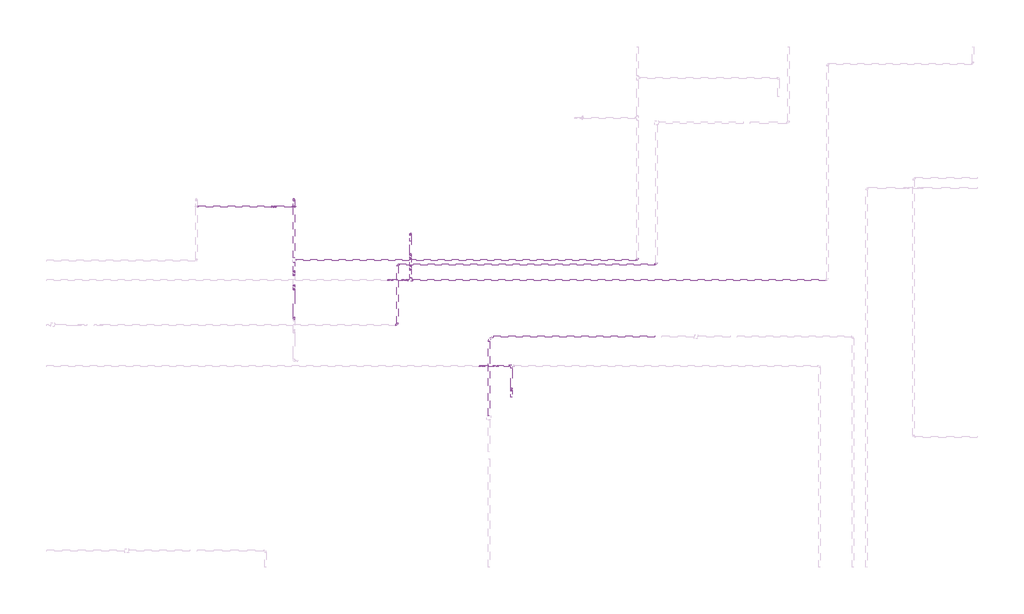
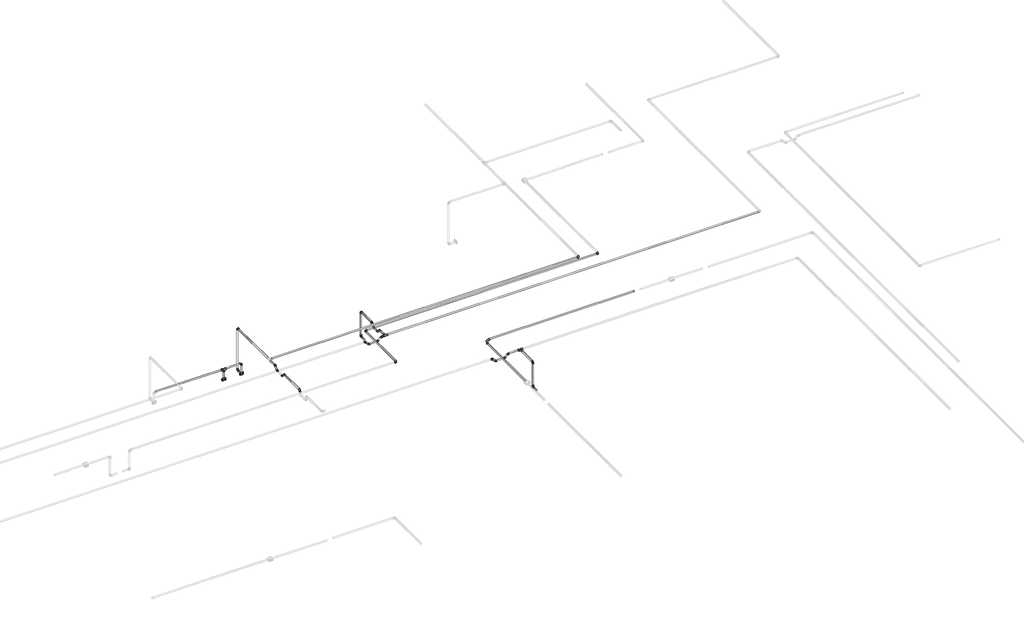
# One storey, part 31 of 40: 35 cable carrier segments, 32 cable carrier fittings, 2 electric appliances.
"""IFC4 building model written with IfcOpenShell, lengths in millimetres."""

from ifc_helpers import new_model, si_unit, point, frame, frame_2d, origin, place, context, project, spatial, circle_curve, trimmed, segment, composite_curve, outline, extrude, transform, mapped, element, save
from components import cable_carrier_fitting_69f1a801, cable_carrier_fitting_ce951043, cable_carrier_fitting_8122f9af, cable_carrier_fitting_8fd13dfc, electric_appliance_5961a143

model = new_model("IFC4")

# Units and contexts
model_context = context("Model", 3, world=origin())
ifc_project = project(units=[si_unit("LENGTHUNIT", "METRE", prefix="MILLI")], contexts=[model_context])

# Site, building, storey
site = spatial("IfcSite", under=ifc_project)
building = spatial("IfcBuilding", under=site)
storey = spatial("IfcBuildingStorey", under=building, Name="1 этаж", Elevation=0.0)

# Cable carrier fittings
placement = place(None, origin())
cable_carrier_fitting_shape = cable_carrier_fitting_69f1a801(model_context)
element("IfcCableCarrierFitting", 1, ObjectType="ADSK_Поворот_Минимальный размер : Неспецифицируемый", at=placement, inside=storey, context=model_context, shape_type="MappedRepresentation", body=[
    mapped(cable_carrier_fitting_shape, transform((5967.6759979, 5918.6370105, 3189.2903068), x_axis=(1.0, 0.0, 0.0), y_axis=(0.0, 1.0, 0.0), z_axis=(0.0, 0.0, 1.0))),
])
element("IfcCableCarrierFitting", 2, ObjectType="ADSK_Поворот_Минимальный размер : Неспецифицируемый", at=placement, inside=storey, context=model_context, shape_type="MappedRepresentation", body=[
    mapped(cable_carrier_fitting_shape, transform((2554.1759979, 5122.1370105, 3189.2903068), x_axis=(1.0, 0.0, 0.0), y_axis=(0.0, 1.0, 0.0), z_axis=(0.0, 0.0, 1.0))),
])
element("IfcCableCarrierFitting", 3, ObjectType="ADSK_Поворот_Минимальный размер : Неспецифицируемый", at=placement, inside=storey, context=model_context, shape_type="MappedRepresentation", body=[
    mapped(cable_carrier_fitting_shape, transform((2554.1759979, 5918.6370105, 3189.2903068), x_axis=(-1.0, 0.0, 0.0), y_axis=(0.0, -1.0, 0.0), z_axis=(0.0, 0.0, 1.0))),
])
element("IfcCableCarrierFitting", 4, ObjectType="ADSK_Поворот_Минимальный размер : Неспецифицируемый", at=placement, inside=storey, context=model_context, shape_type="MappedRepresentation", body=[
    mapped(cable_carrier_fitting_shape, transform((1187.6759979, 6678.6370105, 2700.0), x_axis=(0.0, 0.0, 1.0), y_axis=(-1.0, 0.0, 0.0), z_axis=(0.0, -1.0, 0.0))),
])
element("IfcCableCarrierFitting", 5, ObjectType="ADSK_Поворот_Минимальный размер : Неспецифицируемый", at=placement, inside=storey, context=model_context, shape_type="MappedRepresentation", body=[
    mapped(cable_carrier_fitting_shape, transform((1187.6759979, 6778.8368161, 2534.0911237), x_axis=(0.0, 1.0, 0.0), y_axis=(0.0, 0.0, 1.0), z_axis=(1.0, 0.0, 0.0))),
])
element("IfcCableCarrierFitting", 6, ObjectType="ADSK_Поворот_Минимальный размер : Неспецифицируемый", at=placement, inside=storey, context=model_context, shape_type="MappedRepresentation", body=[
    mapped(cable_carrier_fitting_shape, transform((1187.6759979, 6778.8368161, 3187.0), x_axis=(0.0, 0.0, 1.0), y_axis=(0.0, -1.0, 0.0), z_axis=(1.0, 0.0, 0.0))),
])
element("IfcCableCarrierFitting", 7, ObjectType="ADSK_Поворот_Минимальный размер : Неспецифицируемый", at=placement, inside=storey, context=model_context, shape_type="MappedRepresentation", body=[
    mapped(cable_carrier_fitting_shape, transform((5717.6759979, 5976.4696908, 3187.0), x_axis=(1.0, 0.0, 0.0), y_axis=(0.0, 1.0, 0.0), z_axis=(0.0, 0.0, 1.0))),
])
element("IfcCableCarrierFitting", 8, ObjectType="ADSK_Поворот_Минимальный размер : Неспецифицируемый", at=placement, inside=storey, context=model_context, shape_type="MappedRepresentation", body=[
    mapped(cable_carrier_fitting_shape, transform((4057.6759979, 4266.8368161, 2797.4861504), x_axis=(0.0, 1.0, 0.0), y_axis=(0.0, 0.0, 1.0), z_axis=(1.0, 0.0, 0.0))),
])
element("IfcCableCarrierFitting", 9, ObjectType="ADSK_Поворот_Минимальный размер : Неспецифицируемый", at=placement, inside=storey, context=model_context, shape_type="MappedRepresentation", body=[
    mapped(cable_carrier_fitting_shape, transform((4057.6759979, 4266.8368161, 3180.0), x_axis=(0.0, 0.0, 1.0), y_axis=(0.0, 1.0, 0.0), z_axis=(-1.0, 0.0, 0.0))),
])
element("IfcCableCarrierFitting", 10, ObjectType="ADSK_Поворот_Минимальный размер : Неспецифицируемый", at=placement, inside=storey, context=model_context, shape_type="MappedRepresentation", body=[
    mapped(cable_carrier_fitting_shape, transform((2727.6759979, 6321.8368161, 2797.4861504), x_axis=(0.0, 1.0, 0.0), y_axis=(0.0, 0.0, 1.0), z_axis=(1.0, 0.0, 0.0))),
])
element("IfcCableCarrierFitting", 11, ObjectType="ADSK_Поворот_Минимальный размер : Неспецифицируемый", at=placement, inside=storey, context=model_context, shape_type="MappedRepresentation", body=[
    mapped(cable_carrier_fitting_shape, transform((2727.6759979, 6321.8368161, 3180.0), x_axis=(0.0, 0.0, 1.0), y_axis=(0.0, -1.0, 0.0), z_axis=(1.0, 0.0, 0.0))),
])
element("IfcCableCarrierFitting", 12, ObjectType="ADSK_Поворот_Минимальный размер : Неспецифицируемый", at=placement, inside=storey, context=model_context, shape_type="MappedRepresentation", body=[
    mapped(cable_carrier_fitting_shape, transform((1187.6759979, 5198.8368161, 3187.0), x_axis=(0.0, 0.0, 1.0), y_axis=(0.0, 1.0, 0.0), z_axis=(-1.0, 0.0, 0.0))),
])
cable_carrier_fitting_2_shape = cable_carrier_fitting_ce951043(model_context)
element("IfcCableCarrierFitting", 13, ObjectType="ADSK_Поворот_Минимальный размер : Неспецифицируемый", at=placement, inside=storey, context=model_context, shape_type="MappedRepresentation", body=[
    mapped(cable_carrier_fitting_2_shape, transform((3758.6759895, 4964.6370534, 3189.9433093), x_axis=(-0.9999999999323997, 0.0, -1.1627573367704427e-05), y_axis=(-2.839990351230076e-10, -0.9999999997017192, 2.4424617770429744e-05), z_axis=(-1.1627573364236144e-05, 2.4424617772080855e-05, 0.9999999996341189))),
])
cable_carrier_fitting_3_shape = cable_carrier_fitting_8122f9af(model_context)
element("IfcCableCarrierFitting", 14, ObjectType="ADSK_Поворот_Минимальный размер : Неспецифицируемый", at=placement, inside=storey, context=model_context, shape_type="MappedRepresentation", body=[
    mapped(cable_carrier_fitting_3_shape, transform((1187.6759979, 5776.2092818, 3137.0), x_axis=(0.0, -0.707106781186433, -0.7071067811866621), y_axis=(0.0, -0.7071067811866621, 0.707106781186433), z_axis=(-1.0, 0.0, 0.0))),
])
element("IfcCableCarrierFitting", 15, ObjectType="ADSK_Поворот_Минимальный размер : Неспецифицируемый", at=placement, inside=storey, context=model_context, shape_type="MappedRepresentation", body=[
    mapped(cable_carrier_fitting_3_shape, transform((1187.6759979, 5643.0647393, 3137.0), x_axis=(0.0, -1.0, 0.0), y_axis=(0.0, 0.0, 1.0), z_axis=(-1.0, 0.0, 0.0))),
])
element("IfcCableCarrierFitting", 16, ObjectType="ADSK_Поворот_Минимальный размер : Неспецифицируемый", at=placement, inside=storey, context=model_context, shape_type="MappedRepresentation", body=[
    mapped(cable_carrier_fitting_3_shape, transform((2487.6037266, 5709.6370105, 3130.0), x_axis=(0.7071067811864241, 0.0, -0.7071067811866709), y_axis=(0.7071067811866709, 0.0, 0.7071067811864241), z_axis=(0.0, -1.0, 0.0))),
])
element("IfcCableCarrierFitting", 17, ObjectType="ADSK_Поворот_Минимальный размер : Неспецифицируемый", at=placement, inside=storey, context=model_context, shape_type="MappedRepresentation", body=[
    mapped(cable_carrier_fitting_3_shape, transform((2620.7482691, 5709.6370105, 3130.0), x_axis=(1.0, 0.0, 0.0), y_axis=(0.0, 0.0, 1.0), z_axis=(0.0, -1.0, 0.0))),
])
element("IfcCableCarrierFitting", 18, ObjectType="ADSK_Поворот_Минимальный размер : Неспецифицируемый", at=placement, inside=storey, context=model_context, shape_type="MappedRepresentation", body=[
    mapped(cable_carrier_fitting_3_shape, transform((2670.7482691, 5709.6370105, 3180.0), x_axis=(0.7071067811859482, 0.0, 0.7071067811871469), y_axis=(0.7071067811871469, 0.0, -0.7071067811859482), z_axis=(0.0, 1.0, 0.0))),
])
element("IfcCableCarrierFitting", 19, ObjectType="ADSK_Поворот_Минимальный размер : Неспецифицируемый", at=placement, inside=storey, context=model_context, shape_type="MappedRepresentation", body=[
    mapped(cable_carrier_fitting_3_shape, transform((2437.6037266, 5709.6370105, 3180.0), x_axis=(-0.7071067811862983, 0.0, 0.7071067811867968), y_axis=(-0.7071067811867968, 0.0, -0.7071067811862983), z_axis=(0.0, -1.0, 0.0))),
])
element("IfcCableCarrierFitting", 20, ObjectType="ADSK_Поворот_Минимальный размер : Неспецифицируемый", at=placement, inside=storey, context=model_context, shape_type="MappedRepresentation", body=[
    mapped(cable_carrier_fitting_3_shape, transform((2727.6759979, 6046.4696908, 3180.0), x_axis=(0.0, -1.0, 0.0), y_axis=(0.0, 0.0, -1.0), z_axis=(1.0, 0.0, 0.0))),
])
element("IfcCableCarrierFitting", 21, ObjectType="ADSK_Поворот_Минимальный размер : Неспецифицируемый", at=placement, inside=storey, context=model_context, shape_type="MappedRepresentation", body=[
    mapped(cable_carrier_fitting_3_shape, transform((2727.6759979, 5996.4696908, 3130.0), x_axis=(0.0, -0.7071067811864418, -0.7071067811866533), y_axis=(0.0, -0.7071067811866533, 0.7071067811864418), z_axis=(-1.0, 0.0, 0.0))),
])
element("IfcCableCarrierFitting", 22, ObjectType="ADSK_Поворот_Минимальный размер : Неспецифицируемый", at=placement, inside=storey, context=model_context, shape_type="MappedRepresentation", body=[
    mapped(cable_carrier_fitting_3_shape, transform((2727.6759979, 5898.6370105, 3130.0), x_axis=(0.0, -1.0, 0.0), y_axis=(0.0, 0.0, 1.0), z_axis=(-1.0, 0.0, 0.0))),
])
element("IfcCableCarrierFitting", 23, ObjectType="ADSK_Поворот_Минимальный размер : Неспецифицируемый", at=placement, inside=storey, context=model_context, shape_type="MappedRepresentation", body=[
    mapped(cable_carrier_fitting_3_shape, transform((2727.6759979, 5848.6370105, 3180.0), x_axis=(0.0, -0.7071067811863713, 0.7071067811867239), y_axis=(0.0, -0.7071067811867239, -0.7071067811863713), z_axis=(1.0, 0.0, 0.0))),
])
element("IfcCableCarrierFitting", 24, ObjectType="ADSK_Поворот_Минимальный размер : Неспецифицируемый", at=placement, inside=storey, context=model_context, shape_type="MappedRepresentation", body=[
    mapped(cable_carrier_fitting_3_shape, transform((3875.2482608, 4582.0648158, 3180.0), x_axis=(-1.0, 0.0, 0.0), y_axis=(0.0, 0.0, -1.0), z_axis=(0.0, -1.0, 0.0))),
])
element("IfcCableCarrierFitting", 25, ObjectType="ADSK_Поворот_Минимальный размер : Неспецифицируемый", at=placement, inside=storey, context=model_context, shape_type="MappedRepresentation", body=[
    mapped(cable_carrier_fitting_3_shape, transform((3825.2482608, 4582.0648158, 3130.0), x_axis=(-0.7071067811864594, 0.0, -0.7071067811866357), y_axis=(-0.7071067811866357, 0.0, 0.7071067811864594), z_axis=(0.0, 1.0, 0.0))),
])
element("IfcCableCarrierFitting", 26, ObjectType="ADSK_Поворот_Минимальный размер : Неспецифицируемый", at=placement, inside=storey, context=model_context, shape_type="MappedRepresentation", body=[
    mapped(cable_carrier_fitting_3_shape, transform((3692.1037183, 4582.0648158, 3130.0), x_axis=(-1.0, 0.0, 0.0), y_axis=(0.0, 0.0, 1.0), z_axis=(0.0, 1.0, 0.0))),
])
element("IfcCableCarrierFitting", 27, ObjectType="ADSK_Поворот_Минимальный размер : Неспецифицируемый", at=placement, inside=storey, context=model_context, shape_type="MappedRepresentation", body=[
    mapped(cable_carrier_fitting_3_shape, transform((3642.1037183, 4582.0648158, 3180.0), x_axis=(-0.7071067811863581, 0.0, 0.7071067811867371), y_axis=(-0.7071067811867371, 0.0, -0.7071067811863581), z_axis=(0.0, -1.0, 0.0))),
])
element("IfcCableCarrierFitting", 28, ObjectType="ADSK_Поворот_Минимальный размер : Неспецифицируемый", at=placement, inside=storey, context=model_context, shape_type="MappedRepresentation", body=[
    mapped(cable_carrier_fitting_3_shape, transform((1187.6759979, 5826.2092818, 3187.0), x_axis=(0.0, 0.7071067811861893, 0.7071067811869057), y_axis=(0.0, 0.7071067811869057, -0.7071067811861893), z_axis=(-1.0, 0.0, 0.0))),
])
element("IfcCableCarrierFitting", 29, ObjectType="ADSK_Поворот_Минимальный размер : Неспецифицируемый", at=placement, inside=storey, context=model_context, shape_type="MappedRepresentation", body=[
    mapped(cable_carrier_fitting_3_shape, transform((1187.6759979, 5593.0647393, 3187.0), x_axis=(0.0, -0.7071067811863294, 0.7071067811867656), y_axis=(0.0, -0.7071067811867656, -0.7071067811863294), z_axis=(1.0, 0.0, 0.0))),
])
cable_carrier_fitting_4_shape = cable_carrier_fitting_8fd13dfc(model_context)
element("IfcCableCarrierFitting", 30, ObjectType="ADSK_Тройник : ПВХ", at=placement, inside=storey, context=model_context, shape_type="MappedRepresentation", body=[
    mapped(cable_carrier_fitting_4_shape, transform((927.6759979, 6678.6370105, 2700.0), x_axis=(1.0, 0.0, 0.0), y_axis=(0.0, 0.0, 1.0), z_axis=(0.0, -1.0, 0.0))),
])
element("IfcCableCarrierFitting", 31, ObjectType="ADSK_Тройник : ПВХ", at=placement, inside=storey, context=model_context, shape_type="MappedRepresentation", body=[
    mapped(cable_carrier_fitting_4_shape, transform((4057.6759979, 4582.0648158, 3180.0), x_axis=(1.0, 0.0, 0.0), y_axis=(0.0, 1.0, 0.0), z_axis=(0.0, 0.0, 1.0))),
])
element("IfcCableCarrierFitting", 32, ObjectType="ADSK_Тройник : ПВХ", at=placement, inside=storey, context=model_context, shape_type="MappedRepresentation", body=[
    mapped(cable_carrier_fitting_4_shape, transform((2727.6759979, 5709.6370105, 3180.0), x_axis=(-1.0, 0.0, 0.0), y_axis=(0.0, -1.0, 0.0), z_axis=(0.0, 0.0, 1.0))),
])

# Cable carrier segments
element("IfcCableCarrierSegment", 33, ObjectType="Гофрированная труба", at=placement, inside=storey, context=model_context, shape_type="SweptSolid", body=[
    extrude(outline(composite_curve([segment(trimmed(circle_curve(frame_2d((4964.637062, 3189.8106424)), 10.0), [point((4954.637062, 3189.8108867))], [point((4964.6373062, 3199.8106424))], False, "CARTESIAN"), True, "CONTINUOUS"), segment(trimmed(circle_curve(frame_2d((4964.637062, 3189.8106424)), 10.0), [point((4964.6373062, 3199.8106424))], [point((4974.637062, 3189.8103982))], False, "CARTESIAN"), True, "CONTINUOUS"), segment(trimmed(circle_curve(frame_2d((4964.637062, 3189.8106424)), 10.0), [point((4974.637062, 3189.8103982))], [point((4964.6368177, 3179.8106424))], False, "CARTESIAN"), True, "CONTINUOUS"), segment(trimmed(circle_curve(frame_2d((4964.637062, 3189.8106424)), 10.0), [point((4964.6368177, 3179.8106424))], [point((4954.637062, 3189.8108867))], False, "CARTESIAN"), True, "CONTINUOUS")], self_intersect=False)), frame((3819.6759895, 0.0, 0.0), z_axis=(1.0, 0.0, 0.0), x_axis=(0.0, 1.0, 0.0)), (0.0, 0.0, 1.0), 2121.5000084),
])
element("IfcCableCarrierSegment", 34, ObjectType="Гофрированная труба", at=placement, inside=storey, context=model_context, shape_type="SweptSolid", body=[
    extrude(outline(composite_curve([segment(trimmed(circle_curve(frame_2d((0.0, 10.0)), 10.0), [point((0.0, 0.0))], [point((-10.0, 10.0))], False, "CARTESIAN"), True, "CONTINUOUS"), segment(trimmed(circle_curve(frame_2d((0.0, 10.0)), 10.0), [point((-10.0, 10.0))], [point((0.0, 20.0))], False, "CARTESIAN"), True, "CONTINUOUS"), segment(trimmed(circle_curve(frame_2d((0.0, 10.0)), 10.0), [point((0.0, 20.0))], [point((10.0, 10.0))], False, "CARTESIAN"), True, "CONTINUOUS"), segment(trimmed(circle_curve(frame_2d((0.0, 10.0)), 10.0), [point((10.0, 10.0))], [point((0.0, 0.0))], False, "CARTESIAN"), True, "CONTINUOUS")], self_intersect=False)), frame((3748.6759895, 4903.6370534, 3189.9447992), z_axis=(0.0, -0.999999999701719, 2.4424617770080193e-05), x_axis=(0.0, -2.4424617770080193e-05, -0.999999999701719)), (0.0, 0.0, 1.0), 978.0000432),
])
element("IfcCableCarrierSegment", 35, ObjectType="Гофрированная труба", at=placement, inside=storey, context=model_context, shape_type="SweptSolid", body=[
    extrude(outline(composite_curve([segment(trimmed(circle_curve(frame_2d((3189.2903068, 2554.1759979)), 10.0), [point((3189.2903068, 2564.1759979))], [point((3199.2903068, 2554.1759979))], False, "CARTESIAN"), True, "CONTINUOUS"), segment(trimmed(circle_curve(frame_2d((3189.2903068, 2554.1759979)), 10.0), [point((3199.2903068, 2554.1759979))], [point((3189.2903068, 2544.1759979))], False, "CARTESIAN"), True, "CONTINUOUS"), segment(trimmed(circle_curve(frame_2d((3189.2903068, 2554.1759979)), 10.0), [point((3189.2903068, 2544.1759979))], [point((3179.2903068, 2554.1759979))], False, "CARTESIAN"), True, "CONTINUOUS"), segment(trimmed(circle_curve(frame_2d((3189.2903068, 2554.1759979)), 10.0), [point((3179.2903068, 2554.1759979))], [point((3189.2903068, 2564.1759979))], False, "CARTESIAN"), True, "CONTINUOUS")], self_intersect=False)), frame((0.0, 5143.1370105, 0.0), z_axis=(0.0, 1.0, 0.0), x_axis=(0.0, 0.0, 1.0)), (0.0, 0.0, 1.0), 754.5),
])
element("IfcCableCarrierSegment", 36, ObjectType="Гофрированная труба", at=placement, inside=storey, context=model_context, shape_type="SweptSolid", body=[
    extrude(outline(composite_curve([segment(trimmed(circle_curve(frame_2d((5918.6370105, 3189.2903068)), 10.0), [point((5928.6370105, 3189.2903068))], [point((5918.6370105, 3179.2903068))], False, "CARTESIAN"), True, "CONTINUOUS"), segment(trimmed(circle_curve(frame_2d((5918.6370105, 3189.2903068)), 10.0), [point((5918.6370105, 3179.2903068))], [point((5908.6370105, 3189.2903068))], False, "CARTESIAN"), True, "CONTINUOUS"), segment(trimmed(circle_curve(frame_2d((5918.6370105, 3189.2903068)), 10.0), [point((5908.6370105, 3189.2903068))], [point((5918.6370105, 3199.2903068))], False, "CARTESIAN"), True, "CONTINUOUS"), segment(trimmed(circle_curve(frame_2d((5918.6370105, 3189.2903068)), 10.0), [point((5918.6370105, 3199.2903068))], [point((5928.6370105, 3189.2903068))], False, "CARTESIAN"), True, "CONTINUOUS")], self_intersect=False)), frame((2575.1759979, 0.0, 0.0), z_axis=(1.0, 0.0, 0.0), x_axis=(0.0, 1.0, 0.0)), (0.0, 0.0, 1.0), 3371.5),
])
element("IfcCableCarrierSegment", 37, ObjectType="Гофрированная труба", at=placement, inside=storey, context=model_context, shape_type="SweptSolid", body=[
    extrude(outline(composite_curve([segment(trimmed(circle_curve(frame_2d((927.6759979, 6678.6370105)), 10.0), [point((917.6759979, 6678.6370105))], [point((927.6759979, 6688.6370105))], False, "CARTESIAN"), True, "CONTINUOUS"), segment(trimmed(circle_curve(frame_2d((927.6759979, 6678.6370105)), 10.0), [point((927.6759979, 6688.6370105))], [point((937.6759979, 6678.6370105))], False, "CARTESIAN"), True, "CONTINUOUS"), segment(trimmed(circle_curve(frame_2d((927.6759979, 6678.6370105)), 10.0), [point((937.6759979, 6678.6370105))], [point((927.6759979, 6668.6370105))], False, "CARTESIAN"), True, "CONTINUOUS"), segment(trimmed(circle_curve(frame_2d((927.6759979, 6678.6370105)), 10.0), [point((927.6759979, 6668.6370105))], [point((917.6759979, 6678.6370105))], False, "CARTESIAN"), True, "CONTINUOUS")], self_intersect=False)), frame((0.0, 0.0, 2563.1207114), z_axis=(0.0, 0.0, 1.0), x_axis=(1.0, 0.0, 0.0)), (0.0, 0.0, 1.0), 106.8792886),
])
element("IfcCableCarrierSegment", 38, ObjectType="Гофрированная труба", at=placement, inside=storey, context=model_context, shape_type="SweptSolid", body=[
    extrude(outline(composite_curve([segment(trimmed(circle_curve(frame_2d((6678.6370105, 2700.0)), 10.0), [point((6688.6370105, 2700.0))], [point((6678.6370105, 2690.0))], False, "CARTESIAN"), True, "CONTINUOUS"), segment(trimmed(circle_curve(frame_2d((6678.6370105, 2700.0)), 10.0), [point((6678.6370105, 2690.0))], [point((6668.6370105, 2700.0))], False, "CARTESIAN"), True, "CONTINUOUS"), segment(trimmed(circle_curve(frame_2d((6678.6370105, 2700.0)), 10.0), [point((6668.6370105, 2700.0))], [point((6678.6370105, 2710.0))], False, "CARTESIAN"), True, "CONTINUOUS"), segment(trimmed(circle_curve(frame_2d((6678.6370105, 2700.0)), 10.0), [point((6678.6370105, 2710.0))], [point((6688.6370105, 2700.0))], False, "CARTESIAN"), True, "CONTINUOUS")], self_intersect=False)), frame((-71.3240021, 0.0, 0.0), z_axis=(1.0, 0.0, 0.0), x_axis=(0.0, 1.0, 0.0)), (0.0, 0.0, 1.0), 969.0),
])
element("IfcCableCarrierSegment", 39, ObjectType="Гофрированная труба", at=placement, inside=storey, context=model_context, shape_type="SweptSolid", body=[
    extrude(outline(composite_curve([segment(trimmed(circle_curve(frame_2d((1187.6759979, 6678.6370105)), 10.0), [point((1177.6759979, 6678.6370105))], [point((1187.6759979, 6688.6370105))], False, "CARTESIAN"), True, "CONTINUOUS"), segment(trimmed(circle_curve(frame_2d((1187.6759979, 6678.6370105)), 10.0), [point((1187.6759979, 6688.6370105))], [point((1197.6759979, 6678.6370105))], False, "CARTESIAN"), True, "CONTINUOUS"), segment(trimmed(circle_curve(frame_2d((1187.6759979, 6678.6370105)), 10.0), [point((1197.6759979, 6678.6370105))], [point((1187.6759979, 6668.6370105))], False, "CARTESIAN"), True, "CONTINUOUS"), segment(trimmed(circle_curve(frame_2d((1187.6759979, 6678.6370105)), 10.0), [point((1187.6759979, 6668.6370105))], [point((1177.6759979, 6678.6370105))], False, "CARTESIAN"), True, "CONTINUOUS")], self_intersect=False)), frame((0.0, 0.0, 2563.1207114), z_axis=(0.0, 0.0, 1.0), x_axis=(1.0, 0.0, 0.0)), (0.0, 0.0, 1.0), 115.8792886),
])
element("IfcCableCarrierSegment", 40, ObjectType="Гофрированная труба", at=placement, inside=storey, context=model_context, shape_type="SweptSolid", body=[
    extrude(outline(composite_curve([segment(trimmed(circle_curve(frame_2d((6678.6370105, 2700.0)), 10.0), [point((6688.6370105, 2700.0))], [point((6678.6370105, 2690.0))], False, "CARTESIAN"), True, "CONTINUOUS"), segment(trimmed(circle_curve(frame_2d((6678.6370105, 2700.0)), 10.0), [point((6678.6370105, 2690.0))], [point((6668.6370105, 2700.0))], False, "CARTESIAN"), True, "CONTINUOUS"), segment(trimmed(circle_curve(frame_2d((6678.6370105, 2700.0)), 10.0), [point((6668.6370105, 2700.0))], [point((6678.6370105, 2710.0))], False, "CARTESIAN"), True, "CONTINUOUS"), segment(trimmed(circle_curve(frame_2d((6678.6370105, 2700.0)), 10.0), [point((6678.6370105, 2710.0))], [point((6688.6370105, 2700.0))], False, "CARTESIAN"), True, "CONTINUOUS")], self_intersect=False)), frame((957.6759979, 0.0, 0.0), z_axis=(1.0, 0.0, 0.0), x_axis=(0.0, 1.0, 0.0)), (0.0, 0.0, 1.0), 209.0),
])
element("IfcCableCarrierSegment", 41, ObjectType="Гофрированная труба", at=placement, inside=storey, context=model_context, shape_type="SweptSolid", body=[
    extrude(outline(composite_curve([segment(trimmed(circle_curve(frame_2d((2534.0911237, 1187.6759979)), 10.0), [point((2534.0911237, 1197.6759979))], [point((2544.0911237, 1187.6759979))], False, "CARTESIAN"), True, "CONTINUOUS"), segment(trimmed(circle_curve(frame_2d((2534.0911237, 1187.6759979)), 10.0), [point((2544.0911237, 1187.6759979))], [point((2534.0911237, 1177.6759979))], False, "CARTESIAN"), True, "CONTINUOUS"), segment(trimmed(circle_curve(frame_2d((2534.0911237, 1187.6759979)), 10.0), [point((2534.0911237, 1177.6759979))], [point((2524.0911237, 1187.6759979))], False, "CARTESIAN"), True, "CONTINUOUS"), segment(trimmed(circle_curve(frame_2d((2534.0911237, 1187.6759979)), 10.0), [point((2524.0911237, 1187.6759979))], [point((2534.0911237, 1197.6759979))], False, "CARTESIAN"), True, "CONTINUOUS")], self_intersect=False)), frame((0.0, 6681.6370105, 0.0), z_axis=(0.0, 1.0, 0.0), x_axis=(0.0, 0.0, 1.0)), (0.0, 0.0, 1.0), 76.1998056),
])
element("IfcCableCarrierSegment", 42, ObjectType="Гофрированная труба", at=placement, inside=storey, context=model_context, shape_type="SweptSolid", body=[
    extrude(outline(composite_curve([segment(trimmed(circle_curve(frame_2d((1187.6759979, 6778.8368161)), 10.0), [point((1177.6759979, 6778.8368161))], [point((1187.6759979, 6788.8368161))], False, "CARTESIAN"), True, "CONTINUOUS"), segment(trimmed(circle_curve(frame_2d((1187.6759979, 6778.8368161)), 10.0), [point((1187.6759979, 6788.8368161))], [point((1197.6759979, 6778.8368161))], False, "CARTESIAN"), True, "CONTINUOUS"), segment(trimmed(circle_curve(frame_2d((1187.6759979, 6778.8368161)), 10.0), [point((1197.6759979, 6778.8368161))], [point((1187.6759979, 6768.8368161))], False, "CARTESIAN"), True, "CONTINUOUS"), segment(trimmed(circle_curve(frame_2d((1187.6759979, 6778.8368161)), 10.0), [point((1187.6759979, 6768.8368161))], [point((1177.6759979, 6778.8368161))], False, "CARTESIAN"), True, "CONTINUOUS")], self_intersect=False)), frame((0.0, 0.0, 2555.0911237), z_axis=(0.0, 0.0, 1.0), x_axis=(1.0, 0.0, 0.0)), (0.0, 0.0, 1.0), 610.9088763),
])
element("IfcCableCarrierSegment", 43, ObjectType="Гофрированная труба", at=placement, inside=storey, context=model_context, shape_type="SweptSolid", body=[
    extrude(outline(composite_curve([segment(trimmed(circle_curve(frame_2d((5976.4696908, 3187.0)), 10.0), [point((5966.4696908, 3187.0))], [point((5976.4696908, 3197.0))], False, "CARTESIAN"), True, "CONTINUOUS"), segment(trimmed(circle_curve(frame_2d((5976.4696908, 3187.0)), 10.0), [point((5976.4696908, 3197.0))], [point((5986.4696908, 3187.0))], False, "CARTESIAN"), True, "CONTINUOUS"), segment(trimmed(circle_curve(frame_2d((5976.4696908, 3187.0)), 10.0), [point((5986.4696908, 3187.0))], [point((5976.4696908, 3177.0))], False, "CARTESIAN"), True, "CONTINUOUS"), segment(trimmed(circle_curve(frame_2d((5976.4696908, 3187.0)), 10.0), [point((5976.4696908, 3177.0))], [point((5966.4696908, 3187.0))], False, "CARTESIAN"), True, "CONTINUOUS")], self_intersect=False)), frame((1217.6759979, 0.0, 0.0), z_axis=(1.0, 0.0, 0.0), x_axis=(0.0, 1.0, 0.0)), (0.0, 0.0, 1.0), 4479.0),
])
element("IfcCableCarrierSegment", 44, ObjectType="Гофрированная труба", at=placement, inside=storey, context=model_context, shape_type="SweptSolid", body=[
    extrude(outline(composite_curve([segment(trimmed(circle_curve(frame_2d((3187.0, 1187.6759979)), 10.0), [point((3187.0, 1177.6759979))], [point((3177.0, 1187.6759979))], False, "CARTESIAN"), True, "CONTINUOUS"), segment(trimmed(circle_curve(frame_2d((3187.0, 1187.6759979)), 10.0), [point((3177.0, 1187.6759979))], [point((3187.0, 1197.6759979))], False, "CARTESIAN"), True, "CONTINUOUS"), segment(trimmed(circle_curve(frame_2d((3187.0, 1187.6759979)), 10.0), [point((3187.0, 1197.6759979))], [point((3197.0, 1187.6759979))], False, "CARTESIAN"), True, "CONTINUOUS"), segment(trimmed(circle_curve(frame_2d((3187.0, 1187.6759979)), 10.0), [point((3197.0, 1187.6759979))], [point((3187.0, 1177.6759979))], False, "CARTESIAN"), True, "CONTINUOUS")], self_intersect=False)), frame((0.0, 6006.4696908, 0.0), z_axis=(0.0, 1.0, 0.0), x_axis=(0.0, 0.0, 1.0)), (0.0, 0.0, 1.0), 751.3671253),
])
element("IfcCableCarrierSegment", 45, ObjectType="Гофрированная труба", at=placement, inside=storey, context=model_context, shape_type="SweptSolid", body=[
    extrude(outline(composite_curve([segment(trimmed(circle_curve(frame_2d((0.0, 10.0)), 10.0), [point((-10.0, 10.0))], [point((0.0, 20.0))], False, "CARTESIAN"), True, "CONTINUOUS"), segment(trimmed(circle_curve(frame_2d((0.0, 10.0)), 10.0), [point((0.0, 20.0))], [point((10.0, 10.0))], False, "CARTESIAN"), True, "CONTINUOUS"), segment(trimmed(circle_curve(frame_2d((0.0, 10.0)), 10.0), [point((10.0, 10.0))], [point((0.0, 0.0))], False, "CARTESIAN"), True, "CONTINUOUS"), segment(trimmed(circle_curve(frame_2d((0.0, 10.0)), 10.0), [point((0.0, 0.0))], [point((-10.0, 10.0))], False, "CARTESIAN"), True, "CONTINUOUS")], self_intersect=False)), frame((2496.8879979, 5709.6370105, 3120.0), z_axis=(1.0, 0.0, -3.519318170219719e-12), x_axis=(0.0, 1.0, 0.0)), (0.0, 0.0, 1.0), 114.576),
])
element("IfcCableCarrierSegment", 46, ObjectType="Гофрированная труба", at=placement, inside=storey, context=model_context, shape_type="SweptSolid", body=[
    extrude(outline(composite_curve([segment(trimmed(circle_curve(frame_2d((3187.0, 1187.6759979)), 10.0), [point((3187.0, 1197.6759979))], [point((3197.0, 1187.6759979))], False, "CARTESIAN"), True, "CONTINUOUS"), segment(trimmed(circle_curve(frame_2d((3187.0, 1187.6759979)), 10.0), [point((3197.0, 1187.6759979))], [point((3187.0, 1177.6759979))], False, "CARTESIAN"), True, "CONTINUOUS"), segment(trimmed(circle_curve(frame_2d((3187.0, 1187.6759979)), 10.0), [point((3187.0, 1177.6759979))], [point((3177.0, 1187.6759979))], False, "CARTESIAN"), True, "CONTINUOUS"), segment(trimmed(circle_curve(frame_2d((3187.0, 1187.6759979)), 10.0), [point((3177.0, 1187.6759979))], [point((3187.0, 1197.6759979))], False, "CARTESIAN"), True, "CONTINUOUS")], self_intersect=False)), frame((0.0, 5835.493553, 0.0), z_axis=(0.0, 1.0, 0.0), x_axis=(0.0, 0.0, 1.0)), (0.0, 0.0, 1.0), 110.9761378),
])
element("IfcCableCarrierSegment", 47, ObjectType="Гофрированная труба", at=placement, inside=storey, context=model_context, shape_type="SweptSolid", body=[
    extrude(outline(composite_curve([segment(trimmed(circle_curve(frame_2d((0.0, -10.0000001)), 10.0), [point((-10.0, -10.0000001))], [point((0.0, 0.0))], False, "CARTESIAN"), True, "CONTINUOUS"), segment(trimmed(circle_curve(frame_2d((0.0, -10.0000001)), 10.0), [point((0.0, 0.0))], [point((10.0, -10.0000001))], False, "CARTESIAN"), True, "CONTINUOUS"), segment(trimmed(circle_curve(frame_2d((0.0, -10.0000001)), 10.0), [point((10.0, -10.0000001))], [point((0.0, -20.0))], False, "CARTESIAN"), True, "CONTINUOUS"), segment(trimmed(circle_curve(frame_2d((0.0, -10.0000001)), 10.0), [point((0.0, -20.0))], [point((-10.0, -10.0000001))], False, "CARTESIAN"), True, "CONTINUOUS")], self_intersect=False)), frame((1187.6759979, 5789.8453207, 3136.4939033), z_axis=(0.0, 0.7071067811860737, 0.7071067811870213), x_axis=(1.0, 0.0, 0.0)), (0.0, 0.0, 1.0), 52.1421356),
])
element("IfcCableCarrierSegment", 48, ObjectType="Гофрированная труба", at=placement, inside=storey, context=model_context, shape_type="SweptSolid", body=[
    extrude(outline(composite_curve([segment(trimmed(circle_curve(frame_2d((3187.0, 1187.6759979)), 10.0), [point((3187.0, 1177.6759979))], [point((3177.0, 1187.6759979))], False, "CARTESIAN"), True, "CONTINUOUS"), segment(trimmed(circle_curve(frame_2d((3187.0, 1187.6759979)), 10.0), [point((3177.0, 1187.6759979))], [point((3187.0, 1197.6759979))], False, "CARTESIAN"), True, "CONTINUOUS"), segment(trimmed(circle_curve(frame_2d((3187.0, 1187.6759979)), 10.0), [point((3187.0, 1197.6759979))], [point((3197.0, 1187.6759979))], False, "CARTESIAN"), True, "CONTINUOUS"), segment(trimmed(circle_curve(frame_2d((3187.0, 1187.6759979)), 10.0), [point((3197.0, 1187.6759979))], [point((3187.0, 1177.6759979))], False, "CARTESIAN"), True, "CONTINUOUS")], self_intersect=False)), frame((0.0, 5219.8368161, 0.0), z_axis=(0.0, 1.0, 0.0), x_axis=(0.0, 0.0, 1.0)), (0.0, 0.0, 1.0), 363.9436519),
])
element("IfcCableCarrierSegment", 49, ObjectType="Гофрированная труба", at=placement, inside=storey, context=model_context, shape_type="SweptSolid", body=[
    extrude(outline(composite_curve([segment(trimmed(circle_curve(frame_2d((0.0, 10.0000001)), 10.0), [point((-10.0, 10.0000001))], [point((0.0, 20.0))], False, "CARTESIAN"), True, "CONTINUOUS"), segment(trimmed(circle_curve(frame_2d((0.0, 10.0000001)), 10.0), [point((0.0, 20.0))], [point((10.0, 10.0000001))], False, "CARTESIAN"), True, "CONTINUOUS"), segment(trimmed(circle_curve(frame_2d((0.0, 10.0000001)), 10.0), [point((10.0, 10.0000001))], [point((0.0, 0.0))], False, "CARTESIAN"), True, "CONTINUOUS"), segment(trimmed(circle_curve(frame_2d((0.0, 10.0000001)), 10.0), [point((0.0, 0.0))], [point((-10.0, 10.0000001))], False, "CARTESIAN"), True, "CONTINUOUS")], self_intersect=False)), frame((1187.6759979, 5629.4287003, 3136.4939033), z_axis=(0.0, -0.7071067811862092, 0.707106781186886), x_axis=(1.0, 0.0, 0.0)), (0.0, 0.0, 1.0), 52.1421356),
])
element("IfcCableCarrierSegment", 50, ObjectType="Гофрированная труба", at=placement, inside=storey, context=model_context, shape_type="SweptSolid", body=[
    extrude(outline(composite_curve([segment(trimmed(circle_curve(frame_2d((0.0, -10.0)), 10.0), [point((0.0, -20.0))], [point((-10.0000001, -10.0))], False, "CARTESIAN"), True, "CONTINUOUS"), segment(trimmed(circle_curve(frame_2d((0.0, -10.0)), 10.0), [point((-10.0000001, -10.0))], [point((0.0, 0.0))], False, "CARTESIAN"), True, "CONTINUOUS"), segment(trimmed(circle_curve(frame_2d((0.0, -10.0)), 10.0), [point((0.0, 0.0))], [point((10.0, -10.0))], False, "CARTESIAN"), True, "CONTINUOUS"), segment(trimmed(circle_curve(frame_2d((0.0, -10.0)), 10.0), [point((10.0, -10.0))], [point((0.0, -20.0))], False, "CARTESIAN"), True, "CONTINUOUS")], self_intersect=False)), frame((2481.0387555, 5719.6370105, 3136.5649712), z_axis=(-0.7071067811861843, 0.0, 0.7071067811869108), x_axis=(0.7071067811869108, 0.0, 0.7071067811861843)), (0.0, 0.0, 1.0), 52.1421356),
])
element("IfcCableCarrierSegment", 51, ObjectType="Гофрированная труба", at=placement, inside=storey, context=model_context, shape_type="SweptSolid", body=[
    extrude(outline(composite_curve([segment(trimmed(circle_curve(frame_2d((5709.6370105, 3180.0)), 10.0), [point((5699.6370105, 3180.0))], [point((5709.6370105, 3190.0))], False, "CARTESIAN"), True, "CONTINUOUS"), segment(trimmed(circle_curve(frame_2d((5709.6370105, 3180.0)), 10.0), [point((5709.6370105, 3190.0))], [point((5719.6370105, 3180.0))], False, "CARTESIAN"), True, "CONTINUOUS"), segment(trimmed(circle_curve(frame_2d((5709.6370105, 3180.0)), 10.0), [point((5719.6370105, 3180.0))], [point((5709.6370105, 3170.0))], False, "CARTESIAN"), True, "CONTINUOUS"), segment(trimmed(circle_curve(frame_2d((5709.6370105, 3180.0)), 10.0), [point((5709.6370105, 3170.0))], [point((5699.6370105, 3180.0))], False, "CARTESIAN"), True, "CONTINUOUS")], self_intersect=False)), frame((2757.6759979, 0.0, 0.0), z_axis=(1.0, 0.0, 0.0), x_axis=(0.0, 1.0, 0.0)), (0.0, 0.0, 1.0), 5439.0),
])
element("IfcCableCarrierSegment", 52, ObjectType="Гофрированная труба", at=placement, inside=storey, context=model_context, shape_type="SweptSolid", body=[
    extrude(outline(composite_curve([segment(trimmed(circle_curve(frame_2d((0.0, 10.0)), 10.0), [point((0.0, 0.0))], [point((-10.0, 10.0))], False, "CARTESIAN"), True, "CONTINUOUS"), segment(trimmed(circle_curve(frame_2d((0.0, 10.0)), 10.0), [point((-10.0, 10.0))], [point((0.0, 20.0))], False, "CARTESIAN"), True, "CONTINUOUS"), segment(trimmed(circle_curve(frame_2d((0.0, 10.0)), 10.0), [point((0.0, 20.0))], [point((10.0000001, 10.0))], False, "CARTESIAN"), True, "CONTINUOUS"), segment(trimmed(circle_curve(frame_2d((0.0, 10.0)), 10.0), [point((10.0000001, 10.0))], [point((0.0, 0.0))], False, "CARTESIAN"), True, "CONTINUOUS")], self_intersect=False)), frame((2627.3132403, 5699.6370105, 3136.5649712), z_axis=(0.7071067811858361, 0.0, 0.707106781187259), x_axis=(0.707106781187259, 0.0, -0.7071067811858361)), (0.0, 0.0, 1.0), 52.1421356),
])
element("IfcCableCarrierSegment", 53, ObjectType="Гофрированная труба", at=placement, inside=storey, context=model_context, shape_type="SweptSolid", body=[
    extrude(outline(composite_curve([segment(trimmed(circle_curve(frame_2d((4582.0648158, 3130.0)), 10.0), [point((4592.0648158, 3130.0))], [point((4582.0648158, 3120.0))], False, "CARTESIAN"), True, "CONTINUOUS"), segment(trimmed(circle_curve(frame_2d((4582.0648158, 3130.0)), 10.0), [point((4582.0648158, 3120.0))], [point((4572.0648158, 3130.0))], False, "CARTESIAN"), True, "CONTINUOUS"), segment(trimmed(circle_curve(frame_2d((4582.0648158, 3130.0)), 10.0), [point((4572.0648158, 3130.0))], [point((4582.0648158, 3140.0))], False, "CARTESIAN"), True, "CONTINUOUS"), segment(trimmed(circle_curve(frame_2d((4582.0648158, 3130.0)), 10.0), [point((4582.0648158, 3140.0))], [point((4592.0648158, 3130.0))], False, "CARTESIAN"), True, "CONTINUOUS")], self_intersect=False)), frame((3701.3879895, 0.0, 0.0), z_axis=(1.0, 0.0, 0.0), x_axis=(0.0, 1.0, 0.0)), (0.0, 0.0, 1.0), 114.576),
])
element("IfcCableCarrierSegment", 54, ObjectType="Гофрированная труба", at=placement, inside=storey, context=model_context, shape_type="SweptSolid", body=[
    extrude(outline(composite_curve([segment(trimmed(circle_curve(frame_2d((3180.0, 4057.6759979)), 10.0), [point((3180.0, 4047.6759979))], [point((3170.0, 4057.6759979))], False, "CARTESIAN"), True, "CONTINUOUS"), segment(trimmed(circle_curve(frame_2d((3180.0, 4057.6759979)), 10.0), [point((3170.0, 4057.6759979))], [point((3180.0, 4067.6759979))], False, "CARTESIAN"), True, "CONTINUOUS"), segment(trimmed(circle_curve(frame_2d((3180.0, 4057.6759979)), 10.0), [point((3180.0, 4067.6759979))], [point((3190.0, 4057.6759979))], False, "CARTESIAN"), True, "CONTINUOUS"), segment(trimmed(circle_curve(frame_2d((3180.0, 4057.6759979)), 10.0), [point((3190.0, 4057.6759979))], [point((3180.0, 4047.6759979))], False, "CARTESIAN"), True, "CONTINUOUS")], self_intersect=False)), frame((0.0, 4287.8368161, 0.0), z_axis=(0.0, 1.0, 0.0), x_axis=(0.0, 0.0, 1.0)), (0.0, 0.0, 1.0), 264.2279996),
])
element("IfcCableCarrierSegment", 55, ObjectType="Гофрированная труба", at=placement, inside=storey, context=model_context, shape_type="SweptSolid", body=[
    extrude(outline(composite_curve([segment(trimmed(circle_curve(frame_2d((2797.4861504, 4057.6759979)), 10.0), [point((2797.4861504, 4067.6759979))], [point((2807.4861504, 4057.6759979))], False, "CARTESIAN"), True, "CONTINUOUS"), segment(trimmed(circle_curve(frame_2d((2797.4861504, 4057.6759979)), 10.0), [point((2807.4861504, 4057.6759979))], [point((2797.4861504, 4047.6759979))], False, "CARTESIAN"), True, "CONTINUOUS"), segment(trimmed(circle_curve(frame_2d((2797.4861504, 4057.6759979)), 10.0), [point((2797.4861504, 4047.6759979))], [point((2787.4861504, 4057.6759979))], False, "CARTESIAN"), True, "CONTINUOUS"), segment(trimmed(circle_curve(frame_2d((2797.4861504, 4057.6759979)), 10.0), [point((2787.4861504, 4057.6759979))], [point((2797.4861504, 4067.6759979))], False, "CARTESIAN"), True, "CONTINUOUS")], self_intersect=False)), frame((0.0, 4169.6370105, 0.0), z_axis=(0.0, 1.0, 0.0), x_axis=(0.0, 0.0, 1.0)), (0.0, 0.0, 1.0), 76.1998056),
])
element("IfcCableCarrierSegment", 56, ObjectType="Гофрированная труба", at=placement, inside=storey, context=model_context, shape_type="SweptSolid", body=[
    extrude(outline(composite_curve([segment(trimmed(circle_curve(frame_2d((4057.6759979, 4266.8368161)), 10.0), [point((4047.6759979, 4266.8368161))], [point((4057.6759979, 4276.8368161))], False, "CARTESIAN"), True, "CONTINUOUS"), segment(trimmed(circle_curve(frame_2d((4057.6759979, 4266.8368161)), 10.0), [point((4057.6759979, 4276.8368161))], [point((4067.6759979, 4266.8368161))], False, "CARTESIAN"), True, "CONTINUOUS"), segment(trimmed(circle_curve(frame_2d((4057.6759979, 4266.8368161)), 10.0), [point((4067.6759979, 4266.8368161))], [point((4057.6759979, 4256.8368161))], False, "CARTESIAN"), True, "CONTINUOUS"), segment(trimmed(circle_curve(frame_2d((4057.6759979, 4266.8368161)), 10.0), [point((4057.6759979, 4256.8368161))], [point((4047.6759979, 4266.8368161))], False, "CARTESIAN"), True, "CONTINUOUS")], self_intersect=False)), frame((0.0, 0.0, 2818.4861504), z_axis=(0.0, 0.0, 1.0), x_axis=(1.0, 0.0, 0.0)), (0.0, 0.0, 1.0), 340.5138496),
])
element("IfcCableCarrierSegment", 57, ObjectType="Гофрированная труба", at=placement, inside=storey, context=model_context, shape_type="SweptSolid", body=[
    extrude(outline(composite_curve([segment(trimmed(circle_curve(frame_2d((3130.0, 2727.6759979)), 10.0), [point((3130.0, 2717.6759979))], [point((3120.0, 2727.6759979))], False, "CARTESIAN"), True, "CONTINUOUS"), segment(trimmed(circle_curve(frame_2d((3130.0, 2727.6759979)), 10.0), [point((3120.0, 2727.6759979))], [point((3130.0, 2737.6759979))], False, "CARTESIAN"), True, "CONTINUOUS"), segment(trimmed(circle_curve(frame_2d((3130.0, 2727.6759979)), 10.0), [point((3130.0, 2737.6759979))], [point((3140.0, 2727.6759979))], False, "CARTESIAN"), True, "CONTINUOUS"), segment(trimmed(circle_curve(frame_2d((3130.0, 2727.6759979)), 10.0), [point((3140.0, 2727.6759979))], [point((3130.0, 2717.6759979))], False, "CARTESIAN"), True, "CONTINUOUS")], self_intersect=False)), frame((0.0, 5907.9212818, 0.0), z_axis=(0.0, 1.0, 0.0), x_axis=(0.0, 0.0, 1.0)), (0.0, 0.0, 1.0), 79.2641378),
])
element("IfcCableCarrierSegment", 58, ObjectType="Гофрированная труба", at=placement, inside=storey, context=model_context, shape_type="SweptSolid", body=[
    extrude(outline(composite_curve([segment(trimmed(circle_curve(frame_2d((2797.4861504, 2727.6759979)), 10.0), [point((2797.4861504, 2737.6759979))], [point((2807.4861504, 2727.6759979))], False, "CARTESIAN"), True, "CONTINUOUS"), segment(trimmed(circle_curve(frame_2d((2797.4861504, 2727.6759979)), 10.0), [point((2807.4861504, 2727.6759979))], [point((2797.4861504, 2717.6759979))], False, "CARTESIAN"), True, "CONTINUOUS"), segment(trimmed(circle_curve(frame_2d((2797.4861504, 2727.6759979)), 10.0), [point((2797.4861504, 2717.6759979))], [point((2787.4861504, 2727.6759979))], False, "CARTESIAN"), True, "CONTINUOUS"), segment(trimmed(circle_curve(frame_2d((2797.4861504, 2727.6759979)), 10.0), [point((2787.4861504, 2727.6759979))], [point((2797.4861504, 2737.6759979))], False, "CARTESIAN"), True, "CONTINUOUS")], self_intersect=False)), frame((0.0, 6224.6370105, 0.0), z_axis=(0.0, 1.0, 0.0), x_axis=(0.0, 0.0, 1.0)), (0.0, 0.0, 1.0), 76.1998056),
])
element("IfcCableCarrierSegment", 59, ObjectType="Гофрированная труба", at=placement, inside=storey, context=model_context, shape_type="SweptSolid", body=[
    extrude(outline(composite_curve([segment(trimmed(circle_curve(frame_2d((2727.6759979, 6321.8368161)), 10.0), [point((2717.6759979, 6321.8368161))], [point((2727.6759979, 6331.8368161))], False, "CARTESIAN"), True, "CONTINUOUS"), segment(trimmed(circle_curve(frame_2d((2727.6759979, 6321.8368161)), 10.0), [point((2727.6759979, 6331.8368161))], [point((2737.6759979, 6321.8368161))], False, "CARTESIAN"), True, "CONTINUOUS"), segment(trimmed(circle_curve(frame_2d((2727.6759979, 6321.8368161)), 10.0), [point((2737.6759979, 6321.8368161))], [point((2727.6759979, 6311.8368161))], False, "CARTESIAN"), True, "CONTINUOUS"), segment(trimmed(circle_curve(frame_2d((2727.6759979, 6321.8368161)), 10.0), [point((2727.6759979, 6311.8368161))], [point((2717.6759979, 6321.8368161))], False, "CARTESIAN"), True, "CONTINUOUS")], self_intersect=False)), frame((0.0, 0.0, 2818.4861504), z_axis=(0.0, 0.0, 1.0), x_axis=(1.0, 0.0, 0.0)), (0.0, 0.0, 1.0), 340.5138496),
])
element("IfcCableCarrierSegment", 60, ObjectType="Гофрированная труба", at=placement, inside=storey, context=model_context, shape_type="SweptSolid", body=[
    extrude(outline(composite_curve([segment(trimmed(circle_curve(frame_2d((0.0, 10.0)), 10.0), [point((-10.0, 10.0))], [point((0.0, 20.0))], False, "CARTESIAN"), True, "CONTINUOUS"), segment(trimmed(circle_curve(frame_2d((0.0, 10.0)), 10.0), [point((0.0, 20.0))], [point((10.0, 10.0))], False, "CARTESIAN"), True, "CONTINUOUS"), segment(trimmed(circle_curve(frame_2d((0.0, 10.0)), 10.0), [point((10.0, 10.0))], [point((0.0, 0.0))], False, "CARTESIAN"), True, "CONTINUOUS"), segment(trimmed(circle_curve(frame_2d((0.0, 10.0)), 10.0), [point((0.0, 0.0))], [point((-10.0, 10.0))], False, "CARTESIAN"), True, "CONTINUOUS")], self_intersect=False)), frame((2680.0325404, 5709.6370105, 3170.0), z_axis=(1.0, 0.0, 4.304396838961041e-12), x_axis=(0.0, 1.0, 0.0)), (0.0, 0.0, 1.0), 17.6434575),
])
element("IfcCableCarrierSegment", 61, ObjectType="Гофрированная труба", at=placement, inside=storey, context=model_context, shape_type="SweptSolid", body=[
    extrude(outline(composite_curve([segment(trimmed(circle_curve(frame_2d((3180.0, 2727.6759979)), 10.0), [point((3180.0, 2717.6759979))], [point((3170.0, 2727.6759979))], False, "CARTESIAN"), True, "CONTINUOUS"), segment(trimmed(circle_curve(frame_2d((3180.0, 2727.6759979)), 10.0), [point((3170.0, 2727.6759979))], [point((3180.0, 2737.6759979))], False, "CARTESIAN"), True, "CONTINUOUS"), segment(trimmed(circle_curve(frame_2d((3180.0, 2727.6759979)), 10.0), [point((3180.0, 2737.6759979))], [point((3190.0, 2727.6759979))], False, "CARTESIAN"), True, "CONTINUOUS"), segment(trimmed(circle_curve(frame_2d((3180.0, 2727.6759979)), 10.0), [point((3190.0, 2727.6759979))], [point((3180.0, 2717.6759979))], False, "CARTESIAN"), True, "CONTINUOUS")], self_intersect=False)), frame((0.0, 6055.7539621, 0.0), z_axis=(0.0, 1.0, 0.0), x_axis=(0.0, 0.0, 1.0)), (0.0, 0.0, 1.0), 245.082854),
])
element("IfcCableCarrierSegment", 62, ObjectType="Гофрированная труба", at=placement, inside=storey, context=model_context, shape_type="SweptSolid", body=[
    extrude(outline(composite_curve([segment(trimmed(circle_curve(frame_2d((0.0, -10.0000001)), 10.0), [point((-10.0, -10.0000001))], [point((0.0, 0.0))], False, "CARTESIAN"), True, "CONTINUOUS"), segment(trimmed(circle_curve(frame_2d((0.0, -10.0000001)), 10.0), [point((0.0, 0.0))], [point((10.0, -10.0000001))], False, "CARTESIAN"), True, "CONTINUOUS"), segment(trimmed(circle_curve(frame_2d((0.0, -10.0000001)), 10.0), [point((10.0, -10.0000001))], [point((0.0, -20.0))], False, "CARTESIAN"), True, "CONTINUOUS"), segment(trimmed(circle_curve(frame_2d((0.0, -10.0000001)), 10.0), [point((0.0, -20.0))], [point((-10.0, -10.0000001))], False, "CARTESIAN"), True, "CONTINUOUS")], self_intersect=False)), frame((2727.6759979, 6010.1057298, 3129.4939033), z_axis=(0.0, 0.7071067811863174, 0.7071067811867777), x_axis=(1.0, 0.0, 0.0)), (0.0, 0.0, 1.0), 52.1421356),
])
element("IfcCableCarrierSegment", 63, ObjectType="Гофрированная труба", at=placement, inside=storey, context=model_context, shape_type="SweptSolid", body=[
    extrude(outline(composite_curve([segment(trimmed(circle_curve(frame_2d((3180.0, 2727.6759979)), 10.0), [point((3180.0, 2717.6759979))], [point((3170.0, 2727.6759979))], False, "CARTESIAN"), True, "CONTINUOUS"), segment(trimmed(circle_curve(frame_2d((3180.0, 2727.6759979)), 10.0), [point((3170.0, 2727.6759979))], [point((3180.0, 2737.6759979))], False, "CARTESIAN"), True, "CONTINUOUS"), segment(trimmed(circle_curve(frame_2d((3180.0, 2727.6759979)), 10.0), [point((3180.0, 2737.6759979))], [point((3190.0, 2727.6759979))], False, "CARTESIAN"), True, "CONTINUOUS"), segment(trimmed(circle_curve(frame_2d((3180.0, 2727.6759979)), 10.0), [point((3190.0, 2727.6759979))], [point((3180.0, 2717.6759979))], False, "CARTESIAN"), True, "CONTINUOUS")], self_intersect=False)), frame((0.0, 5739.6370105, 0.0), z_axis=(0.0, 1.0, 0.0), x_axis=(0.0, 0.0, 1.0)), (0.0, 0.0, 1.0), 99.7157288),
])
element("IfcCableCarrierSegment", 64, ObjectType="Гофрированная труба", at=placement, inside=storey, context=model_context, shape_type="SweptSolid", body=[
    extrude(outline(composite_curve([segment(trimmed(circle_curve(frame_2d((0.0, 10.0000001)), 10.0), [point((-10.0, 10.0000001))], [point((0.0, 20.0))], False, "CARTESIAN"), True, "CONTINUOUS"), segment(trimmed(circle_curve(frame_2d((0.0, 10.0000001)), 10.0), [point((0.0, 20.0))], [point((10.0, 10.0000001))], False, "CARTESIAN"), True, "CONTINUOUS"), segment(trimmed(circle_curve(frame_2d((0.0, 10.0000001)), 10.0), [point((10.0, 10.0000001))], [point((0.0, 0.0))], False, "CARTESIAN"), True, "CONTINUOUS"), segment(trimmed(circle_curve(frame_2d((0.0, 10.0000001)), 10.0), [point((0.0, 0.0))], [point((-10.0, 10.0000001))], False, "CARTESIAN"), True, "CONTINUOUS")], self_intersect=False)), frame((2727.6759979, 5885.0009716, 3129.4939033), z_axis=(0.0, -0.7071067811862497, 0.7071067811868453), x_axis=(1.0, 0.0, 0.0)), (0.0, 0.0, 1.0), 52.1421356),
])
element("IfcCableCarrierSegment", 65, ObjectType="Гофрированная труба", at=placement, inside=storey, context=model_context, shape_type="SweptSolid", body=[
    extrude(outline(composite_curve([segment(trimmed(circle_curve(frame_2d((4582.0648158, 3180.0)), 10.0), [point((4592.0648158, 3180.0))], [point((4582.0648158, 3170.0))], False, "CARTESIAN"), True, "CONTINUOUS"), segment(trimmed(circle_curve(frame_2d((4582.0648158, 3180.0)), 10.0), [point((4582.0648158, 3170.0))], [point((4572.0648158, 3180.0))], False, "CARTESIAN"), True, "CONTINUOUS"), segment(trimmed(circle_curve(frame_2d((4582.0648158, 3180.0)), 10.0), [point((4572.0648158, 3180.0))], [point((4582.0648158, 3190.0))], False, "CARTESIAN"), True, "CONTINUOUS"), segment(trimmed(circle_curve(frame_2d((4582.0648158, 3180.0)), 10.0), [point((4582.0648158, 3190.0))], [point((4592.0648158, 3180.0))], False, "CARTESIAN"), True, "CONTINUOUS")], self_intersect=False)), frame((3884.532532, 0.0, 0.0), z_axis=(1.0, 0.0, 0.0), x_axis=(0.0, 1.0, 0.0)), (0.0, 0.0, 1.0), 143.1434659),
])
element("IfcCableCarrierSegment", 66, ObjectType="Гофрированная труба", at=placement, inside=storey, context=model_context, shape_type="SweptSolid", body=[
    extrude(outline(composite_curve([segment(trimmed(circle_curve(frame_2d((0.0, -10.0)), 10.0), [point((0.0, 0.0))], [point((10.0000001, -10.0))], False, "CARTESIAN"), True, "CONTINUOUS"), segment(trimmed(circle_curve(frame_2d((0.0, -10.0)), 10.0), [point((10.0000001, -10.0))], [point((0.0, -20.0))], False, "CARTESIAN"), True, "CONTINUOUS"), segment(trimmed(circle_curve(frame_2d((0.0, -10.0)), 10.0), [point((0.0, -20.0))], [point((-10.0, -10.0))], False, "CARTESIAN"), True, "CONTINUOUS"), segment(trimmed(circle_curve(frame_2d((0.0, -10.0)), 10.0), [point((-10.0, -10.0))], [point((0.0, 0.0))], False, "CARTESIAN"), True, "CONTINUOUS")], self_intersect=False)), frame((3831.8132319, 4592.0648158, 3136.5649712), z_axis=(0.7071067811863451, 0.0, 0.7071067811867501), x_axis=(0.7071067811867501, 0.0, -0.7071067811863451)), (0.0, 0.0, 1.0), 52.1421356),
])
element("IfcCableCarrierSegment", 67, ObjectType="Гофрированная труба", at=placement, inside=storey, context=model_context, shape_type="SweptSolid", body=[
    extrude(outline(composite_curve([segment(trimmed(circle_curve(frame_2d((0.0, 10.0)), 10.0), [point((0.0, 20.0))], [point((10.0, 10.0))], False, "CARTESIAN"), True, "CONTINUOUS"), segment(trimmed(circle_curve(frame_2d((0.0, 10.0)), 10.0), [point((10.0, 10.0))], [point((0.0, 0.0))], False, "CARTESIAN"), True, "CONTINUOUS"), segment(trimmed(circle_curve(frame_2d((0.0, 10.0)), 10.0), [point((0.0, 0.0))], [point((-10.0000001, 10.0))], False, "CARTESIAN"), True, "CONTINUOUS"), segment(trimmed(circle_curve(frame_2d((0.0, 10.0)), 10.0), [point((-10.0000001, 10.0))], [point((0.0, 20.0))], False, "CARTESIAN"), True, "CONTINUOUS")], self_intersect=False)), frame((3685.5387471, 4572.0648158, 3136.5649712), z_axis=(-0.7071067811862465, 0.0, 0.7071067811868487), x_axis=(0.7071067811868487, 0.0, 0.7071067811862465)), (0.0, 0.0, 1.0), 52.1421356),
])

# Electric appliances
electric_appliance_shape = electric_appliance_5961a143(model_context)
element("IfcElectricAppliance", 68, ObjectType="RBZ_Извещатель_ОхранныйМагнитоуправляемый _Рубеж_ИО 10220-2(грань) : ИО 10220-2", at=placement, inside=storey, context=model_context, shape_type="MappedRepresentation", body=[
    mapped(electric_appliance_shape, transform((1187.6759979, 6681.6370105, 2546.0), x_axis=(-1.0, 0.0, 0.0), y_axis=(0.0, 0.0, -1.0), z_axis=(0.0, -1.0, 0.0))),
])
element("IfcElectricAppliance", 69, ObjectType="RBZ_Извещатель_ОхранныйМагнитоуправляемый _Рубеж_ИО 10220-2(грань) : ИО 10220-2", at=placement, inside=storey, context=model_context, shape_type="MappedRepresentation", body=[
    mapped(electric_appliance_shape, transform((927.6759979, 6681.6370105, 2546.0), x_axis=(-1.0, 0.0, 0.0), y_axis=(0.0, 0.0, -1.0), z_axis=(0.0, -1.0, 0.0))),
])

save(model, "model.ifc")
